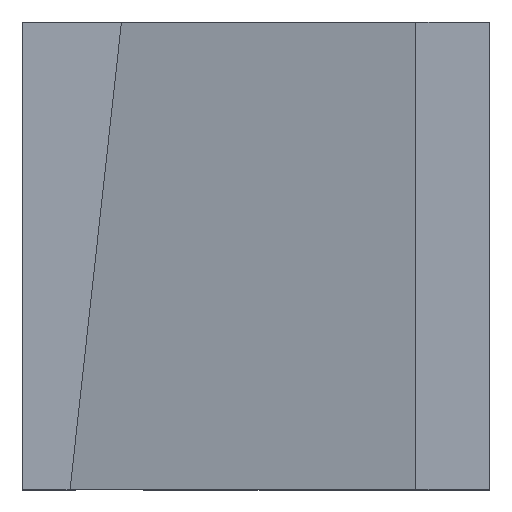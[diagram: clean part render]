
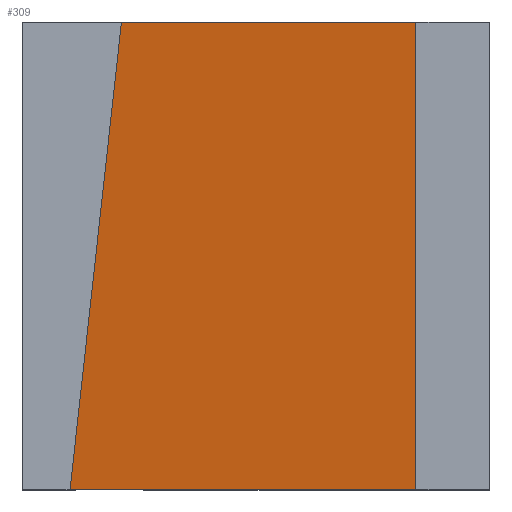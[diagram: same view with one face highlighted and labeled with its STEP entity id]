
A CAD part, top view. The second image highlights one B-rep face of the part: STEP entity #309.
In plain terms, the highlighted planar face has unit normal (0, -0.136, 0.991).
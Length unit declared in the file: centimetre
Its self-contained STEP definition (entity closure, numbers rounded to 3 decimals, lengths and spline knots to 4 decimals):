
#13 = LINE ( 'NONE', #272, #956 ) ;
#42 = VERTEX_POINT ( 'NONE', #460 ) ;
#98 = EDGE_CURVE ( 'NONE', #42, #248, #13, .T. ) ;
#118 = EDGE_CURVE ( 'NONE', #248, #996, #505, .T. ) ;
#172 = CARTESIAN_POINT ( 'NONE',  ( 102.1222, 0., 703.7452 ) ) ;
#248 = VERTEX_POINT ( 'NONE', #714 ) ;
#272 = CARTESIAN_POINT ( 'NONE',  ( 842.0759, 1000., 840.7775 ) ) ;
#309 = ADVANCED_FACE ( 'NONE', ( #538 ), #900, .F. ) ;
#322 = DIRECTION ( 'NONE',  ( -1., 0., 0. ) ) ;
#338 = DIRECTION ( 'NONE',  ( 0., 0.991, 0.136 ) ) ;
#370 = AXIS2_PLACEMENT_3D ( 'NONE', #808, #989, #338 ) ;
#376 = EDGE_LOOP ( 'NONE', ( #853, #831, #382, #1112 ) ) ;
#382 = ORIENTED_EDGE ( 'NONE', *, *, #828, .T. ) ;
#389 = VECTOR ( 'NONE', #322, 100. ) ;
#405 = CARTESIAN_POINT ( 'NONE',  ( 212.0229, 1000., 840.7775 ) ) ;
#460 = CARTESIAN_POINT ( 'NONE',  ( 842.0759, 1000., 840.7775 ) ) ;
#461 = EDGE_CURVE ( 'NONE', #996, #1155, #548, .T. ) ;
#505 = LINE ( 'NONE', #767, #1169 ) ;
#538 = FACE_OUTER_BOUND ( 'NONE', #376, .T. ) ;
#548 = LINE ( 'NONE', #815, #1089 ) ;
#595 = LINE ( 'NONE', #1166, #389 ) ;
#714 = CARTESIAN_POINT ( 'NONE',  ( 842.0759, 0., 703.7452 ) ) ;
#767 = CARTESIAN_POINT ( 'NONE',  ( 842.0759, 0., 703.7452 ) ) ;
#808 = CARTESIAN_POINT ( 'NONE',  ( 842.0759, 1000., 840.7775 ) ) ;
#815 = CARTESIAN_POINT ( 'NONE',  ( 207.8479, 962.0115, 835.5718 ) ) ;
#828 = EDGE_CURVE ( 'NONE', #42, #1155, #595, .T. ) ;
#831 = ORIENTED_EDGE ( 'NONE', *, *, #98, .F. ) ;
#853 = ORIENTED_EDGE ( 'NONE', *, *, #118, .F. ) ;
#900 = PLANE ( 'NONE',  #370 ) ;
#956 = VECTOR ( 'NONE', #1011, 100. ) ;
#989 = DIRECTION ( 'NONE',  ( 0., 0.136, -0.991 ) ) ;
#996 = VERTEX_POINT ( 'NONE', #172 ) ;
#1011 = DIRECTION ( 'NONE',  ( 0., -0.991, -0.136 ) ) ;
#1016 = DIRECTION ( 'NONE',  ( 0.108, 0.985, 0.135 ) ) ;
#1089 = VECTOR ( 'NONE', #1016, 100. ) ;
#1112 = ORIENTED_EDGE ( 'NONE', *, *, #461, .F. ) ;
#1141 = DIRECTION ( 'NONE',  ( -1., 0., 0. ) ) ;
#1155 = VERTEX_POINT ( 'NONE', #405 ) ;
#1166 = CARTESIAN_POINT ( 'NONE',  ( 842.0759, 1000., 840.7775 ) ) ;
#1169 = VECTOR ( 'NONE', #1141, 100. ) ;
